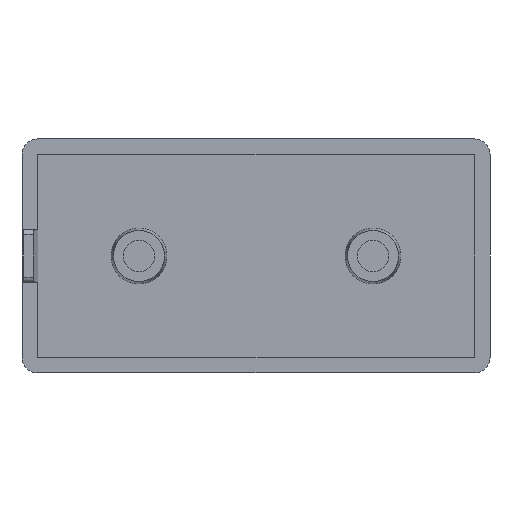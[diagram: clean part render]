
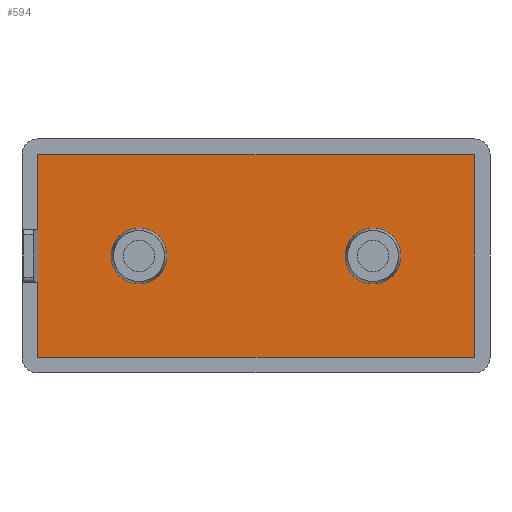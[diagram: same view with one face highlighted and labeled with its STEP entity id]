
A CAD part, front view. The second image highlights one B-rep face of the part: STEP entity #594.
In plain terms, the highlighted planar face has unit normal (0, -1, 0).
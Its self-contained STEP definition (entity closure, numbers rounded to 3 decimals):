
#44=CIRCLE('',#668,5.35);
#45=CIRCLE('',#669,5.35);
#188=ORIENTED_EDGE('',*,*,#291,.F.);
#189=ORIENTED_EDGE('',*,*,#292,.F.);
#190=ORIENTED_EDGE('',*,*,#228,.F.);
#191=ORIENTED_EDGE('',*,*,#290,.F.);
#192=ORIENTED_EDGE('',*,*,#288,.F.);
#193=ORIENTED_EDGE('',*,*,#286,.F.);
#228=EDGE_CURVE('',#305,#306,#355,.T.);
#286=EDGE_CURVE('',#306,#339,#393,.T.);
#288=EDGE_CURVE('',#339,#340,#395,.T.);
#290=EDGE_CURVE('',#340,#305,#397,.T.);
#291=EDGE_CURVE('',#341,#341,#44,.T.);
#292=EDGE_CURVE('',#342,#342,#45,.T.);
#305=VERTEX_POINT('',#889);
#306=VERTEX_POINT('',#891);
#339=VERTEX_POINT('',#1006);
#340=VERTEX_POINT('',#1010);
#341=VERTEX_POINT('',#1016);
#342=VERTEX_POINT('',#1018);
#355=LINE('',#890,#402);
#393=LINE('',#1005,#440);
#395=LINE('',#1009,#442);
#397=LINE('',#1013,#444);
#402=VECTOR('',#698,1000.);
#440=VECTOR('',#824,1000.);
#442=VECTOR('',#828,1000.);
#444=VECTOR('',#832,1000.);
#473=EDGE_LOOP('',(#188));
#474=EDGE_LOOP('',(#189));
#475=EDGE_LOOP('',(#190,#191,#192,#193));
#524=FACE_BOUND('',#473,.T.);
#525=FACE_BOUND('',#474,.T.);
#526=FACE_BOUND('',#475,.T.);
#560=PLANE('',#667);
#594=ADVANCED_FACE('',(#524,#525,#526),#560,.F.);
#667=AXIS2_PLACEMENT_3D('',#1014,#833,#834);
#668=AXIS2_PLACEMENT_3D('',#1015,#835,#836);
#669=AXIS2_PLACEMENT_3D('',#1017,#837,#838);
#698=DIRECTION('',(0.,0.,1.));
#824=DIRECTION('',(1.,0.,0.));
#828=DIRECTION('',(0.,0.,-1.));
#832=DIRECTION('',(-1.,0.,0.));
#833=DIRECTION('',(0.,1.,0.));
#834=DIRECTION('',(0.,0.,1.));
#835=DIRECTION('',(0.,-1.,0.));
#836=DIRECTION('',(0.,0.,-1.));
#837=DIRECTION('',(0.,-1.,0.));
#838=DIRECTION('',(0.,0.,-1.));
#889=CARTESIAN_POINT('',(-42.,-3.,-19.5));
#890=CARTESIAN_POINT('',(-42.,-3.,-19.5));
#891=CARTESIAN_POINT('',(-42.,-3.,19.5));
#1005=CARTESIAN_POINT('',(-42.,-3.,19.5));
#1006=CARTESIAN_POINT('',(42.,-3.,19.5));
#1009=CARTESIAN_POINT('',(42.,-3.,19.5));
#1010=CARTESIAN_POINT('',(42.,-3.,-19.5));
#1013=CARTESIAN_POINT('',(42.,-3.,-19.5));
#1014=CARTESIAN_POINT('',(0.,-3.,0.));
#1015=CARTESIAN_POINT('',(-22.5,-3.,0.));
#1016=CARTESIAN_POINT('',(-22.5,-3.,-5.35));
#1017=CARTESIAN_POINT('',(22.5,-3.,0.));
#1018=CARTESIAN_POINT('',(22.5,-3.,-5.35));
